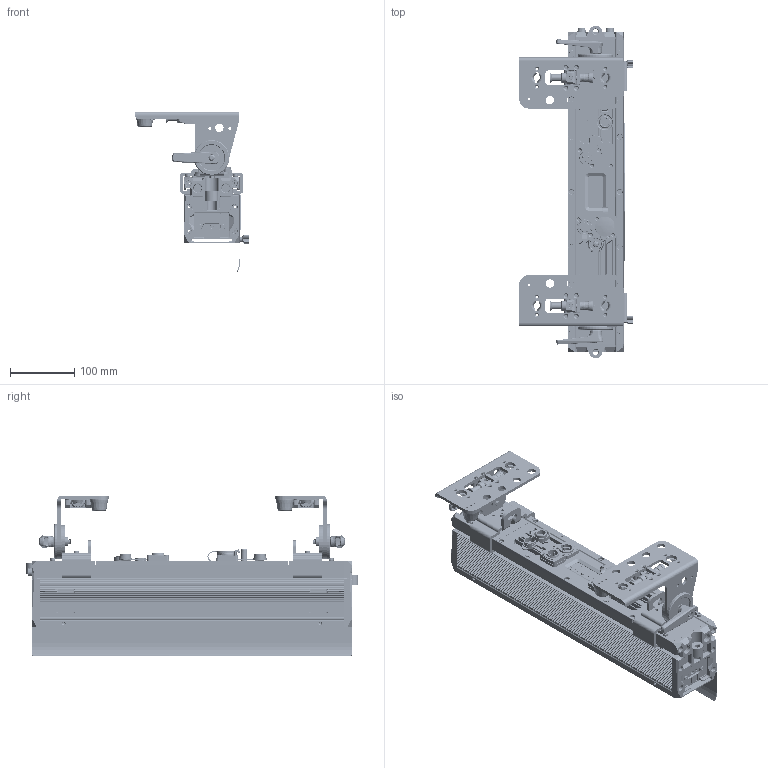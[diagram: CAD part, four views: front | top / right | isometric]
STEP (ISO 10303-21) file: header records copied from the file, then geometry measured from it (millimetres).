
FILE_DESCRIPTION(('HOOPS Exchange Step'),'2;1');
FILE_NAME('E:\cdb\hoops_acs\acs\9788\78299\018069-5-Light Fixture.step','2024-06-14T09:40:06+02:00',('caddok'),('Unknown organisation'),'HOOPS Exchange 2024.0','HOOPS Exchange','Unknown authorisation');
FILE_SCHEMA( ('AP242_MANAGED_MODEL_BASED_3D_ENGINEERING_MIM_LF {1 0 10303 442 1 1 4 }') );
Length unit declared in the file: millimetre
Products named in the file (2): Standard; 018069-5-Light Fixture
Assembly tree (1 placements, depth 2):
  018069-5-Light Fixture
    Standard
Bounding box: 177.36 x 518 x 250.05 mm (x, y, z)
Volume: 2006760.2 mm3; surface area: 1318902.4 mm2
Topology: 96 solids, 96 shells, 9942 faces, 28356 edges, 18857 vertices
Faces by surface type: plane 4615, cylinder 2567, bspline 1388, cone 859, torus 453, sphere 60
Full cylindrical faces by diameter (mm): 1.6 x9, 1.987 x3, 2 x1, 2.2 x14, 2.3 x20, 2.5 x7, 2.6 x4, 2.7 x1, 2.89 x102, 3 x3, 3.2 x18, 3.3 x91, 3.4 x6, 3.5 x20, 4 x46, 4.2 x12, 4.5 x58, 4.6 x2, 5 x19, 5.1 x1, 5.2 x2, 5.5 x2, 5.76 x1, 5.8 x2, 5.95 x4, 6 x5, 6.2 x1, 6.5 x4, 6.6 x2, 7 x4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
Entity records: 662051 total; most frequent: CARTESIAN_POINT 415316, ORIENTED_EDGE 56460, DIRECTION 44582, EDGE_CURVE 28230, VERTEX_POINT 18854, AXIS2_PLACEMENT_3D 15930, VECTOR 12722, LINE 12722
